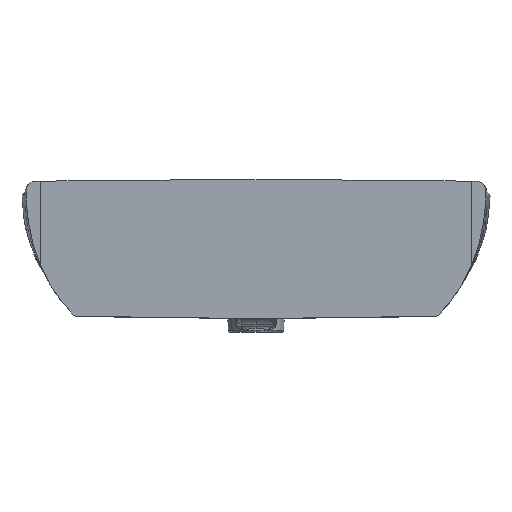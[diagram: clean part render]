
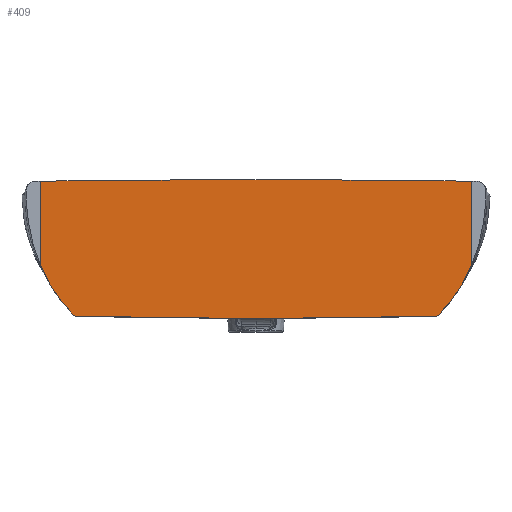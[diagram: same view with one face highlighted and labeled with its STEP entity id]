
A CAD part, front view. The second image highlights one B-rep face of the part: STEP entity #409.
In plain terms, the highlighted planar face has unit normal (0, -1, 0).
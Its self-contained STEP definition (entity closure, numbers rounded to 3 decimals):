
#207=B_SPLINE_CURVE_WITH_KNOTS('',3,(#2143,#2144,#2145,#2146),
 .UNSPECIFIED.,.F.,.F.,(4,4),(0.,1.),.UNSPECIFIED.);
#208=B_SPLINE_CURVE_WITH_KNOTS('',3,(#2149,#2150,#2151,#2152),
 .UNSPECIFIED.,.F.,.F.,(4,4),(0.,1.),.UNSPECIFIED.);
#209=B_SPLINE_CURVE_WITH_KNOTS('',3,(#2154,#2155,#2156,#2157),
 .UNSPECIFIED.,.F.,.F.,(4,4),(0.,1.),.UNSPECIFIED.);
#210=B_SPLINE_CURVE_WITH_KNOTS('',3,(#2159,#2160,#2161,#2162,#2163,#2164),
 .UNSPECIFIED.,.F.,.F.,(4,2,4),(0.,0.5,1.),.UNSPECIFIED.);
#211=B_SPLINE_CURVE_WITH_KNOTS('',1,(#2166,#2167),.UNSPECIFIED.,.F.,.F.,
(2,2),(0.,1.),.UNSPECIFIED.);
#212=B_SPLINE_CURVE_WITH_KNOTS('',1,(#2173,#2174),.UNSPECIFIED.,.F.,.F.,
(2,2),(0.,1.),.UNSPECIFIED.);
#213=B_SPLINE_CURVE_WITH_KNOTS('',3,(#2176,#2177,#2178,#2179,#2180,#2181),
 .UNSPECIFIED.,.F.,.F.,(4,2,4),(0.,0.5,1.),.UNSPECIFIED.);
#214=B_SPLINE_CURVE_WITH_KNOTS('',3,(#2183,#2184,#2185,#2186),
 .UNSPECIFIED.,.F.,.F.,(4,4),(0.,1.),.UNSPECIFIED.);
#215=B_SPLINE_CURVE_WITH_KNOTS('',3,(#2188,#2189,#2190,#2191),
 .UNSPECIFIED.,.F.,.F.,(4,4),(0.,1.),.UNSPECIFIED.);
#409=ADVANCED_FACE('',(#532),#521,.F.);
#521=PLANE('',#1847);
#532=FACE_OUTER_BOUND('',#642,.T.);
#642=EDGE_LOOP('',(#759,#760,#761,#762,#763,#764,#765,#766,#767,#768,#769));
#759=ORIENTED_EDGE('',*,*,#1507,.F.);
#760=ORIENTED_EDGE('',*,*,#1508,.F.);
#761=ORIENTED_EDGE('',*,*,#1509,.F.);
#762=ORIENTED_EDGE('',*,*,#1510,.F.);
#763=ORIENTED_EDGE('',*,*,#1511,.F.);
#764=ORIENTED_EDGE('',*,*,#1512,.F.);
#765=ORIENTED_EDGE('',*,*,#1513,.F.);
#766=ORIENTED_EDGE('',*,*,#1514,.F.);
#767=ORIENTED_EDGE('',*,*,#1515,.F.);
#768=ORIENTED_EDGE('',*,*,#1516,.F.);
#769=ORIENTED_EDGE('',*,*,#1517,.F.);
#1331=VERTEX_POINT('',#2147);
#1332=VERTEX_POINT('',#2148);
#1333=VERTEX_POINT('',#2153);
#1334=VERTEX_POINT('',#2158);
#1335=VERTEX_POINT('',#2165);
#1336=VERTEX_POINT('',#2168);
#1337=VERTEX_POINT('',#2170);
#1338=VERTEX_POINT('',#2172);
#1339=VERTEX_POINT('',#2175);
#1340=VERTEX_POINT('',#2182);
#1341=VERTEX_POINT('',#2187);
#1507=EDGE_CURVE('',#1331,#1332,#207,.T.);
#1508=EDGE_CURVE('',#1333,#1331,#208,.T.);
#1509=EDGE_CURVE('',#1334,#1333,#209,.T.);
#1510=EDGE_CURVE('',#1335,#1334,#210,.T.);
#1511=EDGE_CURVE('',#1336,#1335,#211,.T.);
#1512=EDGE_CURVE('',#1337,#1336,#1791,.T.);
#1513=EDGE_CURVE('',#1338,#1337,#1792,.T.);
#1514=EDGE_CURVE('',#1339,#1338,#212,.T.);
#1515=EDGE_CURVE('',#1340,#1339,#213,.T.);
#1516=EDGE_CURVE('',#1341,#1340,#214,.T.);
#1517=EDGE_CURVE('',#1332,#1341,#215,.T.);
#1791=CIRCLE('',#1845,20803.026);
#1792=CIRCLE('',#1846,20803.026);
#1845=AXIS2_PLACEMENT_3D('',#2169,#1925,#1926);
#1846=AXIS2_PLACEMENT_3D('',#2171,#1927,#1928);
#1847=AXIS2_PLACEMENT_3D('',#2192,#1929,#1930);
#1925=DIRECTION('',(0.,1.,0.));
#1926=DIRECTION('',(0.,0.,-1.));
#1927=DIRECTION('',(0.,1.,0.));
#1928=DIRECTION('',(0.,0.,1.));
#1929=DIRECTION('',(0.,1.,0.));
#1930=DIRECTION('',(0.,0.,1.));
#2143=CARTESIAN_POINT('',(225.124,0.,39.867));
#2144=CARTESIAN_POINT('',(74.929,0.,36.044));
#2145=CARTESIAN_POINT('',(-75.153,0.,36.043));
#2146=CARTESIAN_POINT('',(-225.124,0.,39.867));
#2147=CARTESIAN_POINT('',(225.124,-0.003,39.867));
#2148=CARTESIAN_POINT('',(-225.124,-0.003,39.867));
#2149=CARTESIAN_POINT('',(230.482,0.,40.01));
#2150=CARTESIAN_POINT('',(228.696,0.,39.96));
#2151=CARTESIAN_POINT('',(226.91,0.,39.913));
#2152=CARTESIAN_POINT('',(225.124,0.,39.867));
#2153=CARTESIAN_POINT('',(230.482,-0.003,40.01));
#2154=CARTESIAN_POINT('',(233.876,0.,41.469));
#2155=CARTESIAN_POINT('',(233.005,0.,40.599));
#2156=CARTESIAN_POINT('',(231.713,0.,40.044));
#2157=CARTESIAN_POINT('',(230.482,0.,40.01));
#2158=CARTESIAN_POINT('',(233.884,0.,41.478));
#2159=CARTESIAN_POINT('',(275.978,0.,104.969));
#2160=CARTESIAN_POINT('',(270.296,0.,91.559));
#2161=CARTESIAN_POINT('',(263.666,0.,79.544));
#2162=CARTESIAN_POINT('',(249.366,0.,58.405));
#2163=CARTESIAN_POINT('',(241.696,0.,49.277));
#2164=CARTESIAN_POINT('',(233.885,0.,41.478));
#2165=CARTESIAN_POINT('',(275.978,-0.002,104.969));
#2166=CARTESIAN_POINT('',(275.978,0.,213.169));
#2167=CARTESIAN_POINT('',(275.978,0.,104.968));
#2168=CARTESIAN_POINT('',(275.978,0.,213.169));
#2169=CARTESIAN_POINT('',(0.,-0.593,-20588.026));
#2170=CARTESIAN_POINT('',(0.,0.,215.));
#2171=CARTESIAN_POINT('',(0.,-0.593,-20588.026));
#2172=CARTESIAN_POINT('',(-275.978,0.,213.169));
#2173=CARTESIAN_POINT('',(-275.978,0.,104.968));
#2174=CARTESIAN_POINT('',(-275.978,0.,213.169));
#2175=CARTESIAN_POINT('',(-275.979,0.,104.968));
#2176=CARTESIAN_POINT('',(-233.885,0.,41.478));
#2177=CARTESIAN_POINT('',(-241.696,0.,49.277));
#2178=CARTESIAN_POINT('',(-249.366,0.,58.405));
#2179=CARTESIAN_POINT('',(-263.666,0.,79.544));
#2180=CARTESIAN_POINT('',(-270.296,0.,91.559));
#2181=CARTESIAN_POINT('',(-275.978,0.,104.969));
#2182=CARTESIAN_POINT('',(-233.884,0.,41.478));
#2183=CARTESIAN_POINT('',(-230.482,0.,40.01));
#2184=CARTESIAN_POINT('',(-231.713,0.,40.044));
#2185=CARTESIAN_POINT('',(-233.005,0.,40.599));
#2186=CARTESIAN_POINT('',(-233.876,0.,41.469));
#2187=CARTESIAN_POINT('',(-230.482,-0.003,40.01));
#2188=CARTESIAN_POINT('',(-225.124,0.,39.867));
#2189=CARTESIAN_POINT('',(-226.91,0.,39.913));
#2190=CARTESIAN_POINT('',(-228.696,0.,39.96));
#2191=CARTESIAN_POINT('',(-230.482,0.,40.01));
#2192=CARTESIAN_POINT('',(0.,-0.593,-20588.026));
